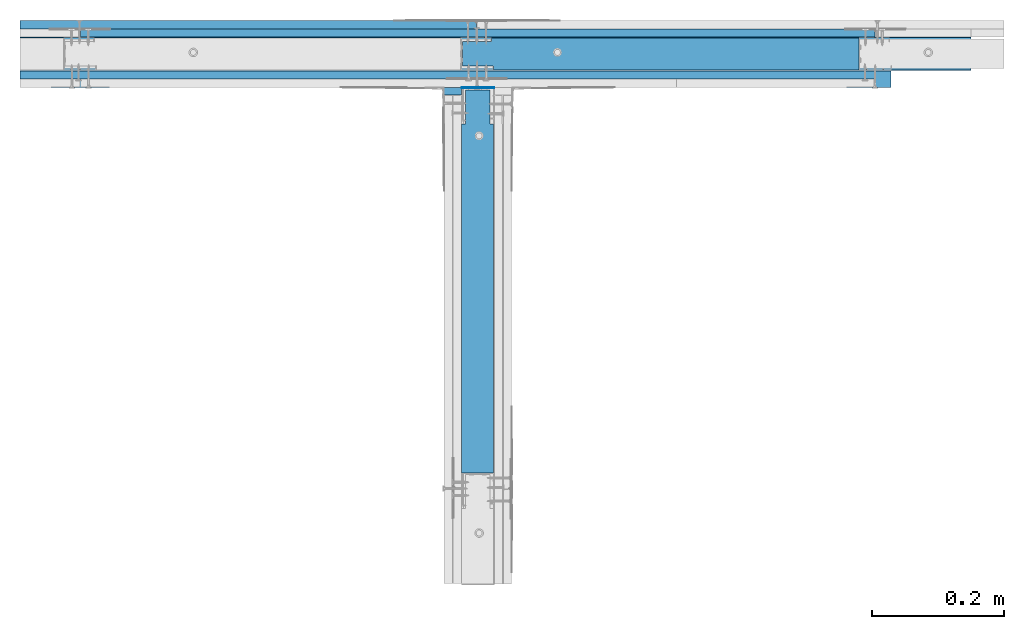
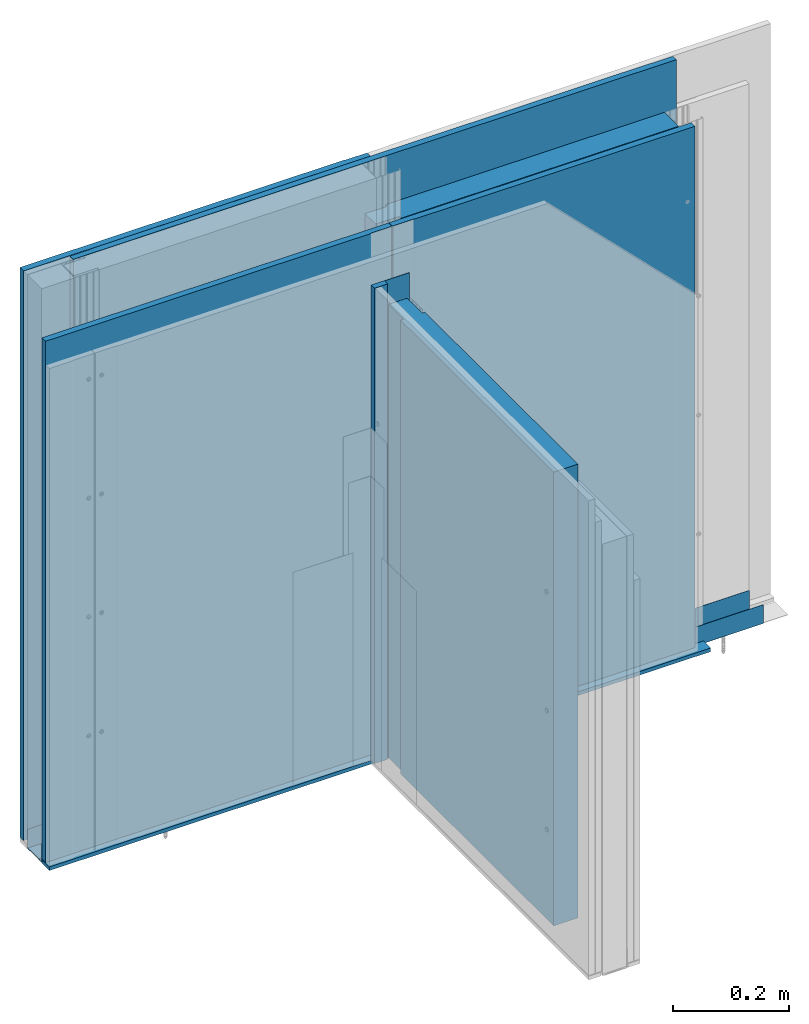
# One storey, part 1 of 89: 10 walls.
"""IFC2X3 building model written with IfcOpenShell, lengths in millimetres."""

import ifcopenshell
import ifcopenshell.guid

model = None  # the IFC model being written
_history = None  # IfcOwnerHistory: only IFC2X3 demands one
_inside = {}  # id of a spatial element -> (the spatial element, [elements in it])
_under = {}  # id of a project, library or spatial element -> (it, [spatial elements below it])
_declared = {}  # id of a project -> (the project, [libraries it declares])
_typed = {}  # id of a type object -> (the type object, [elements of that type])
_made_of = {}  # id of a material, layer set ... -> (it, [elements and type objects made of it])


def new_model(schema):
    """Start an empty IFC model of exactly this schema.

    Asked for "IFC4X3", IfcOpenShell would pick the latest addendum, in which some entities
    have other attributes; the version numbers below select the first issue.
    IFC2X3 requires an IfcOwnerHistory on every rooted entity: one is made here for all.
    """
    global model, _history
    if schema == "IFC4X3":
        model = ifcopenshell.file(schema_version=(4, 3, 0, 0))
    else:
        model = ifcopenshell.file(schema=schema)
    _inside.clear()
    _under.clear()
    _declared.clear()
    _typed.clear()
    _made_of.clear()
    _history = None
    if model.schema == "IFC2X3":
        org = make("IfcOrganization", Name="unknown")
        user = make(
            "IfcPersonAndOrganization",
            ThePerson=make("IfcPerson", FamilyName="unknown"),
            TheOrganization=org,
        )
        app = make(
            "IfcApplication",
            ApplicationDeveloper=org,
            Version="unknown",
            ApplicationFullName="unknown",
            ApplicationIdentifier="unknown",
        )
        _history = make(
            "IfcOwnerHistory",
            OwningUser=user,
            OwningApplication=app,
            ChangeAction="ADDED",
            CreationDate=0,
        )
    return model


def make(cls, **values):
    """One entity of the class cls with the attributes given. An attribute that is None is left unset."""
    return model.create_entity(
        cls, **{name: value for name, value in values.items() if value is not None}
    )


def entity(cls, *values):
    """Any entity or typed value of the class cls, its attributes in the order of the schema. None: left unset."""
    e = model.create_entity(cls)
    for i, value in enumerate(values):
        if value is not None:
            e[i] = value
    return e


def rooted(cls, **values):
    """An entity with a GlobalId (a new one), such as an element, a storey or a relation."""
    return make(cls, GlobalId=ifcopenshell.guid.new(), OwnerHistory=_history, **values)


def si_unit(unit_type, name, prefix=None):
    """IfcSIUnit, for example si_unit("LENGTHUNIT", "METRE", prefix="MILLI")."""
    return make("IfcSIUnit", UnitType=unit_type, Prefix=prefix, Name=name)


def converted_unit(unit_type, name, factor, base, dimensions=None, offset=None):
    """IfcConversionBasedUnit, such as the inch: factor (a typed value) times the base unit."""
    return make(
        "IfcConversionBasedUnit"
        if offset is None
        else "IfcConversionBasedUnitWithOffset",
        ConversionOffset=offset,
        Dimensions=None
        if dimensions is None
        else entity("IfcDimensionalExponents", *dimensions),
        UnitType=unit_type,
        Name=name,
        ConversionFactor=make(
            "IfcMeasureWithUnit", ValueComponent=factor, UnitComponent=base
        ),
    )


def assignment(units):
    """IfcUnitAssignment: the units of a project."""
    return None if units is None else make("IfcUnitAssignment", Units=units)


def point(xyz):
    """IfcCartesianPoint."""
    return None if xyz is None else make("IfcCartesianPoint", Coordinates=xyz)


def direction(xyz):
    """IfcDirection."""
    return None if xyz is None else make("IfcDirection", DirectionRatios=xyz)


def frame(location, z_axis=None, x_axis=None):
    """IfcAxis2Placement3D, a coordinate frame: its origin and axes. An axis left out is left unset."""
    return make(
        "IfcAxis2Placement3D",
        Location=point(location),
        Axis=direction(z_axis),
        RefDirection=direction(x_axis),
    )


def origin():
    """The frame at (0, 0, 0) with its axes left unset."""
    return frame((0.0, 0.0, 0.0))


def origin_with_axes():
    """The frame at (0, 0, 0) with the z axis (0, 0, 1) and the x axis (1, 0, 0) written out."""
    return frame((0.0, 0.0, 0.0), z_axis=(0.0, 0.0, 1.0), x_axis=(1.0, 0.0, 0.0))


def place(relative_to, where):
    """IfcLocalPlacement: puts the frame where relative to a parent placement (None: the world)."""
    return make(
        "IfcLocalPlacement", PlacementRelTo=relative_to, RelativePlacement=where
    )


def context(
    kind, dimensions, precision=None, world=None, true_north=None, identifier=None
):
    """IfcGeometricRepresentationContext, for example the 3D "Model" context."""
    return make(
        "IfcGeometricRepresentationContext",
        ContextIdentifier=identifier,
        ContextType=kind,
        CoordinateSpaceDimension=dimensions,
        Precision=precision,
        WorldCoordinateSystem=world,
        TrueNorth=true_north,
    )


def project(units=None, contexts=None):
    """IfcProject with its units and contexts."""
    return rooted(
        "IfcProject",
        Name="project",
        RepresentationContexts=contexts,
        UnitsInContext=assignment(units),
    )


def spatial(cls, under=None, at=None, **own):
    """A site, building, storey or space (cls), placed at a placement, below another one or the project."""
    s = rooted(cls, ObjectPlacement=at, **own)
    if under is not None:
        _under.setdefault(under.id(), (under, []))[1].append(s)
    return s


def faces_of(points, faces, orient=None, outer=None):
    """IfcFace entities. A face is a list of loops; a loop is a list of indices into points, from 0.

    orient and outer hold one flag for each loop. By default every Orientation is true, the
    first loop of a face is its IfcFaceOuterBound and the others are IfcFaceBound.
    """
    made = []
    for i, loops in enumerate(faces):
        bounds = []
        for j, loop in enumerate(loops):
            is_outer = j == 0 if outer is None else outer[i][j]
            bounds.append(
                make(
                    "IfcFaceOuterBound" if is_outer else "IfcFaceBound",
                    Bound=make("IfcPolyLoop", Polygon=[points[k] for k in loop]),
                    Orientation=True if orient is None else orient[i][j],
                )
            )
        made.append(make("IfcFace", Bounds=bounds))
    return made


def faceted_brep(points, faces, orient=None, outer=None, voids=None):
    """IfcFacetedBrep: a solid bounded by flat faces; with voids (closed shells), ...WithVoids."""
    shared = [point(p) for p in points]
    hull = make("IfcClosedShell", CfsFaces=faces_of(shared, faces, orient, outer))
    if voids is None:
        return make("IfcFacetedBrep", Outer=hull)
    return make(
        "IfcFacetedBrepWithVoids",
        Outer=hull,
        Voids=[
            make(cls, CfsFaces=faces_of(shared, fs, o, b)) for cls, fs, o, b in voids
        ],
    )


def shape(context_of_items, identifier, shape_type, items):
    """IfcShapeRepresentation: the items that make up one representation, for example the "Body"."""
    return make(
        "IfcShapeRepresentation",
        ContextOfItems=context_of_items,
        RepresentationIdentifier=identifier,
        RepresentationType=shape_type,
        Items=items,
    )


def made_of(thing, what):
    """Note that an element or type object is made of a material, layer set ...; save() writes the relation."""
    if what is not None:
        _made_of.setdefault(what.id(), (what, []))[1].append(thing)
    return thing


def element(
    cls,
    number,
    at=None,
    inside=None,
    cuts=None,
    type_object=None,
    material=None,
    context=None,
    identifier="Body",
    shape_type=None,
    held_by="IfcProductDefinitionShape",
    body=None,
    shapes=None,
    **own,
):
    """One element of the class cls, such as IfcWall. Its Tag is "e" and its number.

    at: its placement. inside: the storey or other place that contains it. cuts: it is an
    opening in that element (IfcRelVoidsElement). A single representation is given by context,
    identifier, shape_type and body (its items); several are given by shapes. held_by: the class
    of the entity that holds the representations. save() writes the other relations.
    """
    e = rooted(cls, Tag="e%d" % number, ObjectPlacement=at, **own)
    if body is not None:
        shapes = [shape(context, identifier, shape_type, body)]
    if shapes is not None:
        e.Representation = make(held_by, Representations=shapes)
    if inside is not None:
        _inside.setdefault(inside.id(), (inside, []))[1].append(e)
    if cuts is not None:
        rooted(
            "IfcRelVoidsElement", RelatingBuildingElement=cuts, RelatedOpeningElement=e
        )
    if type_object is not None:
        _typed.setdefault(type_object.id(), (type_object, []))[1].append(e)
    return made_of(e, material)


def aggregate(whole, parts):
    """IfcRelAggregates: a whole, such as a stair, and the parts it consists of."""
    return rooted("IfcRelAggregates", RelatingObject=whole, RelatedObjects=parts)


def save(model, path):
    """Write the relations noted so far, then the file.

    IfcRelAggregates (storeys below a building ...), IfcRelContainedInSpatialStructure (elements
    in a storey), IfcRelDefinesByType, IfcRelAssociatesMaterial and IfcRelDeclares: one each for
    every whole, place, type object, material and project.
    """
    for whole, parts in _under.values():
        aggregate(whole, parts)
    for where, things in _inside.values():
        rooted(
            "IfcRelContainedInSpatialStructure",
            RelatedElements=things,
            RelatingStructure=where,
        )
    for kind, things in _typed.values():
        rooted("IfcRelDefinesByType", RelatedObjects=things, RelatingType=kind)
    for what, things in _made_of.values():
        rooted("IfcRelAssociatesMaterial", RelatedObjects=things, RelatingMaterial=what)
    for by, libraries in _declared.values():
        rooted("IfcRelDeclares", RelatingContext=by, RelatedDefinitions=libraries)
    model.write(path)


model = new_model("IFC2X3")

# Units and contexts
model_context = context("Model", 3, precision=1e-05, world=origin(), true_north=direction((0.0, 1.0, 0.0)))
ifc_project = project(units=[si_unit("LENGTHUNIT", "METRE", prefix="MILLI"), si_unit("AREAUNIT", "SQUARE_METRE"), si_unit("VOLUMEUNIT", "CUBIC_METRE"), converted_unit("PLANEANGLEUNIT", "DEGREE", entity("IfcPlaneAngleMeasure", 0.01745), si_unit("PLANEANGLEUNIT", "RADIAN"), dimensions=[0, 0, 0, 0, 0, 0, 0]), si_unit("SOLIDANGLEUNIT", "STERADIAN"), si_unit("MASSUNIT", "GRAM"), si_unit("TIMEUNIT", "SECOND"), si_unit("THERMODYNAMICTEMPERATUREUNIT", "DEGREE_CELSIUS"), si_unit("LUMINOUSINTENSITYUNIT", "LUMEN")], contexts=[model_context])

# Site, building, storey
site_placement = place(None, origin_with_axes())
site = spatial("IfcSite", under=ifc_project, at=site_placement, Name="Default Site", CompositionType="ELEMENT")
building_placement = place(site_placement, origin_with_axes())
building = spatial("IfcBuilding", under=site, at=building_placement, Name="Default Building", CompositionType="ELEMENT")
storey_placement = place(building_placement, origin_with_axes())
storey = spatial("IfcBuildingStorey", under=building, at=storey_placement, Name="Default Building Storey", CompositionType="ELEMENT", Elevation=0.0)

# Walls
wall_1_placement = place(storey_placement, frame((2790.120278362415, 2010.770002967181, -205.1555179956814), z_axis=(-2.220446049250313e-16, 1.0, -8.881784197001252e-16), x_axis=(1.97215226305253e-31, -8.881784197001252e-16, -1.0)))
element("IfcWall", 1, at=wall_1_placement, inside=storey, Name="Dedykowana masa szpachlowa Rigips - konstrukcyjna", context=model_context, shape_type="Brep", body=[
    faceted_brep([(-215.1539363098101, 24.6461696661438, 6.136247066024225e-12), (-215.1539363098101, -1.353830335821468, 6.136247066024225e-12), (-1215.156161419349, -1.353830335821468, 4.692424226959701e-12), (-1215.156161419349, 24.6461696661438, 4.692424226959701e-12), (-215.1539363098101, -1.353830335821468, 11.37091977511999), (-1215.156161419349, -1.353830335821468, 11.37091977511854), (-215.1539363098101, 24.6461696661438, 11.37091977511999), (-1215.156161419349, 24.6461696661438, 11.37091977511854)], [[[0, 1, 2, 3]], [[1, 4, 5, 2]], [[4, 6, 7, 5]], [[6, 0, 3, 7]], [[7, 3, 2, 5]], [[0, 6, 4, 1]]]),
])
wall_2_placement = place(storey_placement, frame((6271.778123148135, 1857.295223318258, 8.685136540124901), z_axis=(-6.543277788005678e-14, 5.88895000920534e-13, 1.0), x_axis=(4.440892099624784e-16, -1.0, 7.986880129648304e-13)))
element("IfcWall", 2, at=wall_2_placement, inside=storey, Name="Wełna mineralna szklana lub skalna ISOVER", context=model_context, shape_type="Brep", body=[
    faceted_brep([(-161.2775660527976, -3473.633223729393, -3.086139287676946), (-161.2775660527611, -3473.633223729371, 951.3155068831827), (-109.9235473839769, -3473.633223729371, 951.3155068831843), (-109.9235473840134, -3473.633223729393, -3.086139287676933), (-109.9235473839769, -3479.633223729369, 951.3155068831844), (-109.9235473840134, -3479.633223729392, -3.086139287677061), (-161.2775660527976, -3436.833223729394, -3.086139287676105), (-161.2775660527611, -3436.83322372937, 951.3155068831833), (-109.9235473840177, -3436.833223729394, -3.086139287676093), (-109.9235473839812, -3436.83322372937, 951.3155068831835), (-109.9235473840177, -3431.283223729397, -3.086139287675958), (417.5745403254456, -3431.283223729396, -3.086139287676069), (417.5745403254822, -3431.283223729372, 951.3155068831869), (-109.9235473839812, -3431.283223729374, 951.3155068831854), (417.5745403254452, -3479.633223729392, -3.086139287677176), (417.5745403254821, -3479.633223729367, 951.3155068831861)], [[[0, 1, 2, 3]], [[3, 2, 4, 5]], [[1, 0, 6, 7]], [[7, 6, 8, 9]], [[10, 11, 12, 13]], [[9, 8, 10, 13]], [[3, 5, 14, 11, 10, 8, 6, 0]], [[4, 15, 14, 5]], [[15, 4, 2, 1, 7, 9, 13, 12]], [[14, 15, 12, 11]]]),
])
wall_3_placement = place(storey_placement, frame((2816.79106908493, 2010.770002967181, -205.1555179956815), z_axis=(-2.220446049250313e-16, 1.0, -8.881784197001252e-16), x_axis=(1.97215226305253e-31, -8.881784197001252e-16, -1.0)))
element("IfcWall", 3, at=wall_3_placement, inside=storey, Name="Taśma uszczelniająca piankowa RIGIPS", context=model_context, shape_type="Brep", body=[
    faceted_brep([(-215.1539363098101, 24.6461696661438, 10.45350655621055), (-215.1539363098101, -24.1439810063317, 10.45350655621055), (-1215.156161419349, -24.1439810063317, 10.4535065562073), (-1215.156161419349, 24.6461696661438, 10.4535065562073), (-215.1539363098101, -24.1439810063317, 11.37091977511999), (-1215.156161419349, -24.1439810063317, 11.37091977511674), (-215.1539363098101, 24.6461696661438, 11.37091977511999), (-1215.156161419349, 24.6461696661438, 11.37091977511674)], [[[0, 1, 2, 3]], [[1, 4, 5, 2]], [[4, 6, 7, 5]], [[6, 0, 3, 7]], [[7, 3, 2, 5]], [[0, 6, 4, 1]]]),
])
wall_4_placement = place(storey_placement, frame((2216.544899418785, 2098.101767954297, 1033.9739172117), z_axis=(0.0, 0.0, 1.0), x_axis=(1.0, 6.389333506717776e-13, 0.0)))
element("IfcWall", 4, at=wall_4_placement, inside=storey, Name="Płyta gipsowo-kartonowa RIGIPS PRO (4PRO™)", context=model_context, shape_type="Brep", body=[
    faceted_brep([(1199.866025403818, 10.99999999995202, 176.0260827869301), (1199.965925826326, 10.75881904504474, 176.0260827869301), (1199.965925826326, 10.75881904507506, -1022.223852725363), (1199.866025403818, 10.99999999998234, -1022.223852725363), (1199.707106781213, 11.20710678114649, 176.0260827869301), (1199.707106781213, 11.20710678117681, -1022.223852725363), (1199.50000000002, 11.36602540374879, 176.0260827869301), (1199.50000000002, 11.36602540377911, -1022.223852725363), (1199.258819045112, 11.46592582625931, 176.0260827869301), (1199.258819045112, 11.46592582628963, -1022.223852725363), (1199.0, 11.49999999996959, 176.0260827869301), (1199.0, 11.49999999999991, -1022.223852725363), (1158.999999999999, 11.49999999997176, 176.0260827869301), (1158.999999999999, 11.50000000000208, -1022.223852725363), (1155.0, 12.49999999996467, 176.0260827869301), (1155.0, 12.49999999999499, -1022.223852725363), (44.99999999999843, 12.49999999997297, 176.0260827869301), (44.99999999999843, 12.50000000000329, -1022.223852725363), (40.99999999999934, 11.49999999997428, 176.0260827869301), (40.99999999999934, 11.5000000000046, -1022.223852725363), (0.9999999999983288, 11.49999999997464, 176.0260827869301), (0.9999999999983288, 11.50000000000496, -1022.223852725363), (0.7411809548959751, 11.46592582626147, 176.0260827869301), (0.7411809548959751, 11.46592582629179, -1022.223852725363), (0.4999999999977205, 11.36602540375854, 176.0260827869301), (0.4999999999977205, 11.36602540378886, -1022.223852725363), (0.2928932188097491, 11.20710678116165, 176.0260827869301), (0.2928932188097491, 11.20710678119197, -1022.223852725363), (0.1339745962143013, 10.99999999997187, 176.0260827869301), (0.1339745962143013, 11.00000000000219, -1022.223852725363), (0.03407417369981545, 10.75881904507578, 176.0260827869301), (0.03407417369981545, 10.7588190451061, -1022.223852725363), (-3.248601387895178e-12, 10.49999999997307, 176.0260827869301), (-3.248601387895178e-12, 10.50000000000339, -1022.223852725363), (0.0, -3.032027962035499e-11, 176.0260827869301), (0.0, 0.0, -1022.223852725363), (1199.999999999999, -3.032027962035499e-11, 176.0260827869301), (1199.999999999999, 0.0, -1022.223852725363), (1200.00000000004, 10.49999999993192, 176.0260827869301), (1200.00000000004, 10.49999999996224, -1022.223852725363)], [[[0, 1, 2, 3]], [[4, 0, 3, 5]], [[6, 4, 5, 7]], [[8, 6, 7, 9]], [[10, 8, 9, 11]], [[12, 10, 11, 13]], [[14, 12, 13, 15]], [[16, 14, 15, 17]], [[18, 16, 17, 19]], [[20, 18, 19, 21]], [[22, 20, 21, 23]], [[24, 22, 23, 25]], [[26, 24, 25, 27]], [[28, 26, 27, 29]], [[30, 28, 29, 31]], [[32, 30, 31, 33]], [[34, 32, 33, 35]], [[36, 34, 35, 37]], [[38, 36, 37, 39]], [[1, 38, 39, 2]], [[2, 39, 37, 35, 33, 31, 29, 27, 25, 23, 21, 19, 17, 15, 13, 11, 9, 7, 5, 3]], [[12, 14, 16, 18, 20, 22, 24, 26, 28, 30, 32, 34, 36, 38, 1, 0, 4, 6, 8, 10]]]),
])
wall_5_placement = place(storey_placement, frame((2815.357681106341, 2047.140922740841, 1182.329139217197), z_axis=(0.0, 0.0, 1.0), x_axis=(1.0, 0.0, 0.0)))
element("IfcWall", 5, at=wall_5_placement, inside=storey, Name="Płyta gipsowo-kartonowa RIGIPS PRO (4PRO™)", context=model_context, shape_type="Brep", body=[
    faceted_brep([(601.18721831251, 5.883578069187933e-11, -74.08014196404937), (601.1872183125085, -12.49999999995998, -74.08014196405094), (45.00000000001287, -12.4999999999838, -74.08014196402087), (41.00000000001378, -11.49999999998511, -74.08014196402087), (1.000000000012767, -11.49999999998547, -74.08014196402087), (0.7411809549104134, -11.46592582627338, -74.08014196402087), (0.5000000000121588, -11.36602540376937, -74.08014196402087), (0.2928932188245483, -11.20710678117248, -74.08014196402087), (0.1339745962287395, -10.99999999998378, -74.08014196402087), (0.03407417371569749, -10.75881904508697, -74.08014196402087), (1.046771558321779e-11, -10.49999999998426, -74.08014196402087), (1.443822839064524e-11, 1.913065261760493e-11, -74.08014196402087), (601.1872183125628, -12.49999999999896, -1170.579074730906), (44.99999999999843, -12.50000000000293, -1170.57907473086), (0.0, 0.0, -1170.57907473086), (601.187218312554, 2.526689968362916e-12, -1170.579074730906), (40.99999999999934, -11.50000000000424, -1170.57907473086), (0.9999999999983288, -11.5000000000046, -1170.57907473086), (0.7411809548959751, -11.46592582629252, -1170.57907473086), (0.4999999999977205, -11.3660254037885, -1170.57907473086), (0.29289321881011, -11.20710678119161, -1170.57907473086), (0.1339745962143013, -11.00000000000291, -1170.57907473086), (0.03407417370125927, -10.7588190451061, -1170.57907473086), (-3.97051280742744e-12, -10.50000000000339, -1170.57907473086)], [[[0, 1, 2, 3, 4, 5, 6, 7, 8, 9, 10, 11]], [[1, 12, 13, 2]], [[0, 11, 14, 15]], [[0, 15, 12, 1]], [[2, 13, 16, 3]], [[3, 16, 17, 4]], [[4, 17, 18, 5]], [[5, 18, 19, 6]], [[6, 19, 20, 7]], [[7, 20, 21, 8]], [[8, 21, 22, 9]], [[9, 22, 23, 10]], [[10, 23, 14, 11]], [[13, 12, 15, 14, 23, 22, 21, 20, 19, 18, 17, 16]]]),
])
wall_6_placement = place(storey_placement, frame((3436.430006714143, 2022.140922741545, 2.384025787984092), z_axis=(0.0, 0.0, 1.0), x_axis=(1.0, 0.0, 0.0)))
element("IfcWall", 6, at=wall_6_placement, inside=storey, Name="Dedykowana masa szpachlowa Rigips - konstrukcyjna", context=model_context, shape_type="Brep", body=[
    faceted_brep([(4.189213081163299, 24.6461696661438, 0.0), (4.189213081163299, 0.0, 0.0), (-1311.404873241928, 0.0, 0.0), (-1311.404873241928, 24.6461696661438, 0.0), (4.189213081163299, 0.0, 7.614392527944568), (-1311.404873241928, 0.0, 7.614392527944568), (4.189213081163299, 24.6461696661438, 7.614392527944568), (-1311.404873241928, 24.6461696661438, 7.614392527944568)], [[[0, 1, 2, 3]], [[1, 4, 5, 2]], [[4, 6, 7, 5]], [[6, 0, 3, 7]], [[7, 3, 2, 5]], [[0, 6, 4, 1]]]),
])
wall_7_placement = place(storey_placement, frame((2814.357681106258, 2047.140922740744, 1155.534172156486), z_axis=(0.0, 0.0, 1.0), x_axis=(-1.0, 6.389333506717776e-13, 0.0)))
element("IfcWall", 7, at=wall_7_placement, inside=storey, Name="Płyta gipsowo-kartonowa RIGIPS PRO (4PRO™)", context=model_context, shape_type="Brep", body=[
    faceted_brep([(689.3325476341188, 12.49999999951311, -47.2851749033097), (689.3325476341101, -4.591356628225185e-10, -47.2851749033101), (689.3325476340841, -4.558870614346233e-10, -1143.784107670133), (689.3325476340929, 12.49999999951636, -1143.784107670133), (44.9999999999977, 12.50000000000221, -47.28517490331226), (40.9999999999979, 11.50000000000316, -47.28517490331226), (0.9999999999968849, 11.50000000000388, -47.28517490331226), (0.7411809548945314, 11.46592582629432, -47.28517490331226), (0.4999999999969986, 11.3660254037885, -47.28517490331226), (0.29289321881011, 11.20710678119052, -47.28517490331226), (0.1339745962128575, 11.00000000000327, -47.28517490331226), (0.03407417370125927, 10.7588190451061, -47.28517490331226), (-1.443822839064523e-12, 10.50000000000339, -47.28517490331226), (0.0, 0.0, -47.28517490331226), (44.9999999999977, 12.50000000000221, -1143.784107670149), (40.9999999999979, 11.50000000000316, -1143.784107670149), (0.9999999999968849, 11.50000000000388, -1143.784107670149), (0.7411809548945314, 11.46592582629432, -1143.784107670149), (0.4999999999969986, 11.3660254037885, -1143.784107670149), (0.29289321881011, 11.20710678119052, -1143.784107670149), (0.1339745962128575, 11.00000000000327, -1143.784107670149), (0.03407417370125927, 10.7588190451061, -1143.784107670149), (-1.443822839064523e-12, 10.50000000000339, -1143.784107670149), (0.0, 0.0, -1143.784107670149)], [[[0, 1, 2, 3]], [[0, 4, 5, 6, 7, 8, 9, 10, 11, 12, 13, 1]], [[3, 14, 4, 0]], [[5, 4, 14, 15]], [[6, 5, 15, 16]], [[7, 6, 16, 17]], [[8, 7, 17, 18]], [[9, 8, 18, 19]], [[10, 9, 19, 20]], [[11, 10, 20, 21]], [[12, 11, 21, 22]], [[13, 12, 22, 23]], [[2, 1, 13, 23]], [[14, 3, 2, 23, 22, 21, 20, 19, 18, 17, 16, 15]]]),
])
wall_8_placement = place(storey_placement, frame((3343.293750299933, 5528.384991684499, 8.390395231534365), z_axis=(7.268591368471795e-14, -6.858158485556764e-13, 1.0), x_axis=(1.0, -1.018434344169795e-16, -7.988767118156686e-14)))
element("IfcWall", 8, at=wall_8_placement, inside=storey, Name="Profil RIGIPS UW 50 ULTRASTIL®", context=model_context, shape_type="Brep", body=[
    faceted_brep([(-1062.653340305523, -3470.476261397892, -4.901701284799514), (-1062.653340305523, -3470.287116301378, -4.783410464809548), (-1062.653340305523, -3470.128902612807, -4.626130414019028), (-1218.268616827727, -3470.128902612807, -4.626130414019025), (-1218.268616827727, -3470.476261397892, -4.901701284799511), (-1062.653340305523, -3470.063927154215, -4.535249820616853), (-1062.653340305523, -3470.009494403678, -4.437688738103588), (-1218.268616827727, -3470.009494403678, -4.437688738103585), (-1062.653340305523, -3440.279331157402, -4.783410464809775), (-1062.653340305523, -3440.090186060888, -4.901701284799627), (-1062.653340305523, -3439.87952304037, -4.97511570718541), (-1218.268616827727, -3439.87952304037, -4.975115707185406), (-1218.268616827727, -3440.279331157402, -4.783410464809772), (-1062.653340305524, -3440.819375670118, -2.866589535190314), (-1062.653340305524, -3441.008520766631, -2.748298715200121), (-1062.653340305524, -3441.219183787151, -2.674884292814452), (-1218.268616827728, -3441.219183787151, -2.67488429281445), (-1218.268616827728, -3440.819375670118, -2.866589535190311), (-1062.653340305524, -3469.55792669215, -2.74829871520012), (-1062.653340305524, -3469.747071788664, -2.866589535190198), (-1062.653340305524, -3469.905285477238, -3.023869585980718), (-1218.268616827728, -3469.905285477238, -3.023869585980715), (-1218.268616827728, -3469.55792669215, -2.748298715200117), (-1218.268616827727, -3479.733223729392, 35.00000000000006), (-1218.268616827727, -3480.283223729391, 35.00000000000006), (-1218.268616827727, -3480.283223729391, -4.199999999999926), (-1218.268616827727, -3480.273374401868, -4.325147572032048), (-1218.268616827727, -3480.244068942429, -4.447213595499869), (-1218.268616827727, -3480.196028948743, -4.563192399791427), (-1218.268616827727, -3480.130437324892, -4.670228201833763), (-1218.268616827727, -3480.048909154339, -4.765685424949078), (-1218.268616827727, -3479.953451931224, -4.847213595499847), (-1218.268616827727, -3479.846416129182, -4.912805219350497), (-1218.268616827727, -3479.73043732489, -4.960845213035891), (-1218.268616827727, -3479.608371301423, -4.99015067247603), (-1218.268616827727, -3479.483223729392, -4.999999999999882), (-1218.268616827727, -3470.908620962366, -4.999999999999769), (-1218.268616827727, -3470.686924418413, -4.975115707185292), (-1218.268616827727, -3469.680725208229, -3.762311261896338), (-1218.268616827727, -3469.561316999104, -3.573869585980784), (-1218.268616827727, -3469.403103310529, -3.416589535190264), (-1218.268616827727, -3469.213958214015, -3.298298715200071), (-1218.268616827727, -3469.003295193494, -3.224884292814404), (-1218.268616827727, -3468.781598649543, -3.199999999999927), (-1218.268616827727, -3441.78484880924, -3.199999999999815), (-1218.268616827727, -3441.563152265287, -3.224884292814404), (-1218.268616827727, -3441.352489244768, -3.298298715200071), (-1218.268616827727, -3441.163344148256, -3.416589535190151), (-1218.268616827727, -3441.005130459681, -3.573869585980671), (-1218.268616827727, -3440.885722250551, -3.762311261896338), (-1218.268616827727, -3440.556953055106, -4.437688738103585), (-1218.268616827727, -3440.437544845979, -4.626130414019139), (-1218.268616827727, -3439.657826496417, -4.999999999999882), (-1218.268616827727, -3431.083223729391, -4.999999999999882), (-1218.268616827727, -3430.95807615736, -4.990150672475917), (-1218.268616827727, -3430.83601013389, -4.960845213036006), (-1218.268616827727, -3430.720031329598, -4.912805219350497), (-1218.268616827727, -3430.612995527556, -4.847213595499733), (-1218.268616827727, -3430.51753830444, -4.765685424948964), (-1218.268616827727, -3430.436010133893, -4.670228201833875), (-1218.268616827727, -3430.370418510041, -4.563192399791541), (-1218.268616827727, -3430.322378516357, -4.447213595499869), (-1218.268616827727, -3430.293073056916, -4.325147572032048), (-1218.268616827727, -3430.283223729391, -4.199999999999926), (-1218.268616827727, -3430.283223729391, 35.00000000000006), (-1218.268616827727, -3430.833223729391, 35.00000000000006), (-1218.268616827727, -3430.833223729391, -4.199999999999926), (-1218.268616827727, -3430.836301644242, -4.23910861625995), (-1218.268616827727, -3430.845459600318, -4.27725424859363), (-1218.268616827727, -3430.860472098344, -4.313497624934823), (-1218.268616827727, -3430.880969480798, -4.346946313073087), (-1218.268616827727, -3430.906447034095, -4.376776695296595), (-1218.268616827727, -3430.936277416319, -4.402254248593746), (-1218.268616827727, -3430.969726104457, -4.422751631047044), (-1218.268616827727, -3431.005969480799, -4.437764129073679), (-1218.268616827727, -3431.044115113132, -4.44692208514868), (-1218.268616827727, -3431.083223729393, -4.449999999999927), (-1218.268616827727, -3439.313858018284, -4.45000000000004), (-1218.268616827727, -3439.535554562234, -4.425115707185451), (-1218.268616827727, -3439.746217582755, -4.351701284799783), (-1218.268616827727, -3439.935362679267, -4.233410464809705), (-1218.268616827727, -3440.093576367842, -4.076130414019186), (-1218.268616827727, -3440.212984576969, -3.887688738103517), (-1218.268616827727, -3440.541753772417, -3.212311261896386), (-1218.268616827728, -3440.661161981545, -3.02386958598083), (-1218.268616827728, -3441.440880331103, -2.649999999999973), (-1218.268616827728, -3469.125567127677, -2.649999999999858), (-1218.268616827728, -3469.347263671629, -2.674884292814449), (-1218.268616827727, -3470.024693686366, -3.212311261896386), (-1218.268616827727, -3470.353462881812, -3.887688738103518), (-1218.268616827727, -3470.472871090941, -4.076130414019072), (-1218.268616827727, -3470.631084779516, -4.233410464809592), (-1218.268616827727, -3470.820229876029, -4.351701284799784), (-1218.268616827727, -3471.030892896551, -4.425115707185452), (-1218.268616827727, -3471.252589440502, -4.449999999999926), (-1218.268616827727, -3479.483223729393, -4.449999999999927), (-1218.268616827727, -3479.522332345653, -4.446922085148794), (-1218.268616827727, -3479.560477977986, -4.437764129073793), (-1218.268616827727, -3479.596721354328, -4.422751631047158), (-1218.268616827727, -3479.630170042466, -4.402254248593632), (-1218.268616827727, -3479.660000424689, -4.376776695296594), (-1218.268616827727, -3479.685477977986, -4.346946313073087), (-1218.268616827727, -3479.705975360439, -4.313497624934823), (-1218.268616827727, -3479.720987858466, -4.27725424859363), (-1218.268616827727, -3479.730145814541, -4.23910861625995), (-1218.268616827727, -3479.733223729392, -4.199999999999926), (217.8621186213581, -3480.283223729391, -4.200000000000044), (217.8621186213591, -3480.283223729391, 35.0), (217.8621186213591, -3479.733223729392, 35.0), (217.8621186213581, -3479.733223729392, -4.200000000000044), (217.8621186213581, -3479.730145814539, -4.239108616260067), (217.8621186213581, -3479.720987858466, -4.277254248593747), (217.8621186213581, -3479.705975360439, -4.313497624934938), (217.8621186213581, -3479.685477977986, -4.346946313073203), (217.8621186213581, -3479.660000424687, -4.376776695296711), (217.8621186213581, -3479.630170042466, -4.402254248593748), (217.8621186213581, -3479.596721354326, -4.422751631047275), (217.8621186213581, -3479.560477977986, -4.43776412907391), (217.8621186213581, -3479.522332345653, -4.446922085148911), (217.8621186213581, -3479.483223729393, -4.450000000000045), (217.8621186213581, -3471.252589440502, -4.450000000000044), (217.8621186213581, -3471.030892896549, -4.425115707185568), (217.8621186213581, -3470.820229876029, -4.3517012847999), (217.8621186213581, -3470.631084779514, -4.233410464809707), (217.8621186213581, -3470.472871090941, -4.076130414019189), (217.8621186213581, -3470.353462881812, -3.887688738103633), (217.8621186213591, -3470.024693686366, -3.212311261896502), (217.8621186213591, -3469.905285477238, -3.023869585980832), (217.8621186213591, -3469.747071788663, -2.866589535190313), (217.8621186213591, -3469.55792669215, -2.748298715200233), (217.8621186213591, -3469.347263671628, -2.674884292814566), (217.8621186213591, -3469.125567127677, -2.649999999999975), (217.8621186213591, -3441.440880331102, -2.650000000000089), (217.8621186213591, -3441.219183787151, -2.674884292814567), (217.8621186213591, -3441.008520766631, -2.748298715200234), (217.8621186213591, -3440.819375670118, -2.866589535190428), (217.8621186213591, -3440.661161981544, -3.023869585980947), (217.8621186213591, -3440.541753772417, -3.212311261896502), (217.8621186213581, -3440.212984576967, -3.887688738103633), (217.8621186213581, -3440.093576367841, -4.076130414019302), (217.8621186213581, -3439.935362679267, -4.233410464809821), (217.8621186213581, -3439.746217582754, -4.3517012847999), (217.8621186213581, -3439.535554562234, -4.425115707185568), (217.8621186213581, -3439.313858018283, -4.450000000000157), (217.8621186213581, -3431.083223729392, -4.450000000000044), (217.8621186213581, -3431.044115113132, -4.446922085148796), (217.8621186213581, -3431.005969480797, -4.437764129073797), (217.8621186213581, -3430.969726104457, -4.422751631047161), (217.8621186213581, -3430.936277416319, -4.402254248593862), (217.8621186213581, -3430.906447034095, -4.376776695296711), (217.8621186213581, -3430.880969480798, -4.346946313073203), (217.8621186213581, -3430.860472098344, -4.313497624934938), (217.8621186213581, -3430.845459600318, -4.277254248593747), (217.8621186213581, -3430.836301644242, -4.239108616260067), (217.8621186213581, -3430.833223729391, -4.200000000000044), (217.8621186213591, -3430.833223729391, 35.0), (217.8621186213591, -3430.283223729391, 35.0), (217.8621186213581, -3430.283223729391, -4.200000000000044), (217.8621186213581, -3430.293073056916, -4.325147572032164), (217.8621186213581, -3430.322378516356, -4.447213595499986), (217.8621186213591, -3430.370418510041, -4.563192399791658), (217.8621186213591, -3430.436010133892, -4.670228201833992), (217.8621186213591, -3430.51753830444, -4.765685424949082), (217.8621186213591, -3430.612995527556, -4.84721359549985), (217.8621186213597, -3430.720031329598, -4.912805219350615), (217.8621186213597, -3430.83601013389, -4.960845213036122), (217.8621186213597, -3430.958076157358, -4.990150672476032), (217.8621186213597, -3431.083223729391, -4.999999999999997), (217.8621186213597, -3439.657826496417, -4.999999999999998), (217.8621186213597, -3439.879523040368, -4.975115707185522), (217.8621186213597, -3440.090186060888, -4.901701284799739), (217.8621186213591, -3440.279331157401, -4.783410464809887), (217.8621186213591, -3440.437544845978, -4.626130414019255), (217.8621186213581, -3440.556953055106, -4.437688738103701), (217.8621186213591, -3440.88572225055, -3.762311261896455), (217.8621186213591, -3441.005130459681, -3.573869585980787), (217.8621186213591, -3441.163344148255, -3.416589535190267), (217.8621186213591, -3441.352489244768, -3.298298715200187), (217.8621186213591, -3441.563152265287, -3.22488429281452), (217.8621186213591, -3441.78484880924, -3.199999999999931), (217.8621186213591, -3468.781598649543, -3.200000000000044), (217.8621186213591, -3469.003295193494, -3.22488429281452), (217.8621186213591, -3469.213958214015, -3.298298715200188), (217.8621186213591, -3469.403103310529, -3.416589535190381), (217.8621186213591, -3469.561316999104, -3.5738695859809), (217.8621186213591, -3469.680725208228, -3.762311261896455), (217.8621186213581, -3470.009494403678, -4.437688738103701), (217.8621186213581, -3470.063927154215, -4.535249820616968), (217.8621186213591, -3470.128902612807, -4.626130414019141), (217.8621186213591, -3470.287116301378, -4.783410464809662), (217.8621186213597, -3470.476261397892, -4.901701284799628), (217.8621186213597, -3470.686924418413, -4.975115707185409), (217.8621186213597, -3470.908620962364, -4.999999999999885), (217.8621186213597, -3479.483223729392, -4.999999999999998), (217.8621186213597, -3479.608371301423, -4.990150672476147), (217.8621186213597, -3479.730437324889, -4.960845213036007), (217.8621186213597, -3479.846416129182, -4.912805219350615), (217.8621186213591, -3479.953451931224, -4.847213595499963), (217.8621186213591, -3480.048909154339, -4.765685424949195), (217.8621186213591, -3480.130437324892, -4.670228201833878), (217.8621186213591, -3480.196028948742, -4.563192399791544), (217.8621186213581, -3480.244068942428, -4.447213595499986), (217.8621186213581, -3480.273374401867, -4.325147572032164)], [[[0, 1, 2, 3, 4]], [[2, 5, 6, 7, 3]], [[8, 9, 10, 11, 12]], [[13, 14, 15, 16, 17]], [[18, 19, 20, 21, 22]], [[23, 24, 25, 26, 27, 28, 29, 30, 31, 32, 33, 34, 35, 36, 37, 4, 3, 7, 38, 39, 40, 41, 42, 43, 44, 45, 46, 47, 48, 49, 50, 51, 12, 11, 52, 53, 54, 55, 56, 57, 58, 59, 60, 61, 62, 63, 64, 65, 66, 67, 68, 69, 70, 71, 72, 73, 74, 75, 76, 77, 78, 79, 80, 81, 82, 83, 84, 17, 16, 85, 86, 87, 22, 21, 88, 89, 90, 91, 92, 93, 94, 95, 96, 97, 98, 99, 100, 101, 102, 103, 104, 105]], [[106, 107, 108, 109, 110, 111, 112, 113, 114, 115, 116, 117, 118, 119, 120, 121, 122, 123, 124, 125, 126, 127, 128, 129, 130, 131, 132, 133, 134, 135, 136, 137, 138, 139, 140, 141, 142, 143, 144, 145, 146, 147, 148, 149, 150, 151, 152, 153, 154, 155, 156, 157, 158, 159, 160, 161, 162, 163, 164, 165, 166, 167, 168, 169, 170, 171, 172, 173, 174, 175, 176, 177, 178, 179, 180, 181, 182, 183, 184, 185, 186, 187, 188, 189, 190, 191, 192, 193, 194, 195, 196, 197, 198, 199, 200, 201, 202]], [[63, 157, 156, 64]], [[64, 156, 155, 65]], [[65, 155, 154, 66]], [[144, 76, 75, 145]], [[74, 146, 145, 75]], [[73, 147, 146, 74]], [[147, 73, 72, 148]], [[71, 149, 148, 72]], [[149, 71, 70, 150]], [[69, 151, 150, 70]], [[68, 152, 151, 69]], [[152, 68, 67, 153]], [[66, 154, 153, 67]], [[76, 144, 143, 77]], [[81, 139, 138, 82]], [[80, 140, 139, 81]], [[79, 141, 140, 80]], [[143, 142, 78, 77]], [[78, 142, 141, 79]], [[82, 138, 137, 83]], [[15, 133, 132, 85, 16]], [[14, 134, 133, 15]], [[13, 135, 134, 14]], [[84, 136, 135, 13, 17]], [[137, 136, 84, 83]], [[85, 132, 131, 86]], [[20, 127, 126, 88, 21]], [[19, 128, 127, 20]], [[18, 129, 128, 19]], [[87, 130, 129, 18, 22]], [[131, 130, 87, 86]], [[88, 126, 125, 89]], [[93, 121, 120, 94]], [[92, 122, 121, 93]], [[91, 123, 122, 92]], [[125, 124, 90, 89]], [[90, 124, 123, 91]], [[94, 120, 119, 95]], [[109, 105, 104, 110]], [[103, 111, 110, 104]], [[102, 112, 111, 103]], [[112, 102, 101, 113]], [[100, 114, 113, 101]], [[114, 100, 99, 115]], [[98, 116, 115, 99]], [[97, 117, 116, 98]], [[117, 97, 96, 118]], [[95, 119, 118, 96]], [[105, 109, 108, 23]], [[23, 108, 107, 24]], [[24, 107, 106, 25]], [[33, 195, 194, 34]], [[194, 193, 35, 34]], [[32, 196, 195, 33]], [[30, 198, 197, 31]], [[197, 196, 32, 31]], [[28, 200, 199, 29]], [[199, 198, 30, 29]], [[27, 201, 200, 28]], [[25, 106, 202, 26]], [[202, 201, 27, 26]], [[35, 193, 192, 36]], [[5, 2, 188, 187]], [[187, 186, 6, 5]], [[1, 189, 188, 2]], [[0, 190, 189, 1]], [[37, 191, 190, 0, 4]], [[192, 191, 37, 36]], [[6, 186, 185, 38, 7]], [[42, 181, 180, 43]], [[41, 182, 181, 42]], [[40, 183, 182, 41]], [[185, 184, 39, 38]], [[39, 184, 183, 40]], [[43, 180, 179, 44]], [[48, 175, 174, 49]], [[47, 176, 175, 48]], [[46, 177, 176, 47]], [[179, 178, 45, 44]], [[45, 178, 177, 46]], [[49, 174, 173, 50]], [[10, 169, 168, 52, 11]], [[9, 170, 169, 10]], [[8, 171, 170, 9]], [[51, 172, 171, 8, 12]], [[173, 172, 51, 50]], [[52, 168, 167, 53]], [[61, 159, 158, 62]], [[158, 157, 63, 62]], [[60, 160, 159, 61]], [[58, 162, 161, 59]], [[161, 160, 60, 59]], [[56, 164, 163, 57]], [[163, 162, 58, 57]], [[55, 165, 164, 56]], [[53, 167, 166, 54]], [[166, 165, 55, 54]]]),
])
wall_9_placement = place(storey_placement, frame((2954.60619811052, 5528.384991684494, 108.8006114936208), z_axis=(0.0, 0.0, 1.0), x_axis=(1.0, 0.0, 0.0)))
element("IfcWall", 9, at=wall_9_placement, inside=storey, Name="Wełna mineralna szklana lub skalna ISOVER", context=model_context, shape_type="Brep", body=[
    faceted_brep([(-161.2958819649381, -3473.633223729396, -3.060216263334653), (-161.2958819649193, -3473.633223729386, 999.4483857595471), (-114.6214102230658, -3473.633223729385, 999.4483857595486), (-114.6214102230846, -3473.633223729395, -3.060216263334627), (-114.6214102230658, -3479.633223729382, 999.4483857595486), (-114.6214102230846, -3479.633223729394, -3.060216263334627), (-161.2958819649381, -3436.833223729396, -3.060216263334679), (-161.2958819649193, -3436.833223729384, 999.4483857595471), (-117.6214102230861, -3436.833223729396, -3.060216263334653), (-117.6214102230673, -3436.833223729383, 999.4483857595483), (-117.6214102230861, -3431.283223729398, -3.060216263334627), (437.5658080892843, -3431.283223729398, -3.060216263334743), (437.5658080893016, -3431.283223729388, 999.4483857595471), (-117.6214102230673, -3431.283223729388, 999.4483857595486), (437.5658080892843, -3479.633223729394, -3.060216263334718), (437.5658080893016, -3479.633223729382, 999.4483857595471)], [[[0, 1, 2, 3]], [[3, 2, 4, 5]], [[1, 0, 6, 7]], [[7, 6, 8, 9]], [[10, 11, 12, 13]], [[9, 8, 10, 13]], [[3, 5, 14, 11, 10, 8, 6, 0]], [[4, 15, 14, 5]], [[15, 4, 2, 1, 7, 9, 13, 12]], [[14, 15, 12, 11]]]),
])
wall_10_placement = place(storey_placement, frame((2814.544899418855, 2110.601767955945, 1155.534172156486), z_axis=(0.0, 0.0, 1.0), x_axis=(-1.0, 0.0, 0.0)))
element("IfcWall", 10, at=wall_10_placement, inside=storey, Name="Płyta gipsowo-kartonowa RIGIPS PRO (4PRO™)", context=model_context, shape_type="Brep", body=[
    faceted_brep([(689.5197659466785, -12.49999999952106, 54.46582784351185), (689.5197659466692, 4.511946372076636e-10, 54.46582784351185), (689.5197659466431, 4.475850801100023e-10, -1143.784107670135), (689.5197659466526, -12.49999999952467, -1143.784107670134), (44.99999999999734, -12.50000000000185, 54.46582784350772), (40.99999999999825, -11.50000000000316, 54.46582784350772), (0.9999999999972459, -11.50000000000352, 54.46582784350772), (0.7411809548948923, -11.46592582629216, 54.46582784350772), (0.4999999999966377, -11.36602540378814, 54.46582784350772), (0.2928932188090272, -11.20710678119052, 54.46582784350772), (0.1339745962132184, -11.00000000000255, 54.46582784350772), (0.0340741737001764, -10.75881904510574, 54.46582784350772), (-3.248601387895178e-12, -10.50000000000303, 54.46582784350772), (-1.082867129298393e-12, 3.609557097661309e-13, 54.46582784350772), (44.99999999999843, -12.50000000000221, -1143.784107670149), (40.99999999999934, -11.50000000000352, -1143.784107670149), (0.9999999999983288, -11.50000000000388, -1143.784107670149), (0.7411809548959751, -11.46592582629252, -1143.784107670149), (0.4999999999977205, -11.3660254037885, -1143.784107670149), (0.29289321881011, -11.20710678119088, -1143.784107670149), (0.1339745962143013, -11.00000000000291, -1143.784107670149), (0.03407417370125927, -10.7588190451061, -1143.784107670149), (-2.165734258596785e-12, -10.50000000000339, -1143.784107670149), (0.0, 0.0, -1143.784107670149)], [[[0, 1, 2, 3]], [[0, 4, 5, 6, 7, 8, 9, 10, 11, 12, 13, 1]], [[3, 14, 4, 0]], [[5, 4, 14, 15]], [[6, 5, 15, 16]], [[7, 6, 16, 17]], [[8, 7, 17, 18]], [[9, 8, 18, 19]], [[10, 9, 19, 20]], [[11, 10, 20, 21]], [[12, 11, 21, 22]], [[13, 12, 22, 23]], [[2, 1, 13, 23]], [[14, 3, 2, 23, 22, 21, 20, 19, 18, 17, 16, 15]]]),
])

save(model, "model.ifc")
